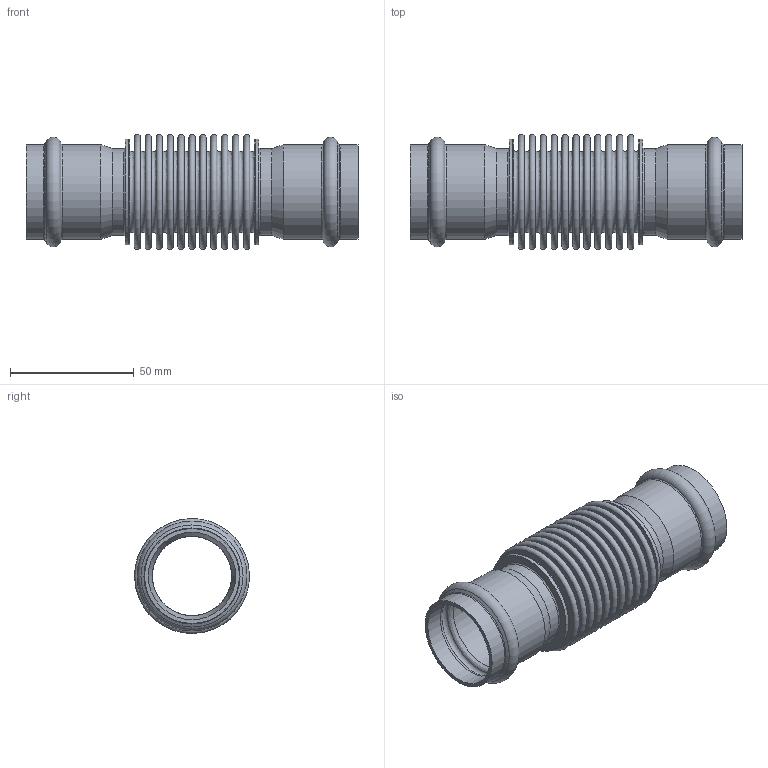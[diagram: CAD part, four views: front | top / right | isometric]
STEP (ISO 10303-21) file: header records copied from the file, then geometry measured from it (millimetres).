
FILE_DESCRIPTION((''),'2;1');
FILE_NAME('G:\Nirosan-Schmiedefeld\Technics\CAD\001 Serie 9.000\035\69872L35H(0).stp','2018-09-11T15:34:06',('herberg'),(''),'Autodesk Inventor 2009','Autodesk Inventor 2009','');
FILE_SCHEMA(('AUTOMOTIVE_DESIGN { 1 0 10303 214 1 1 1 1 }'));
Length unit declared in the file: millimetre
Products named in the file (3): 69872L35H(0); 69HMB35p(0); 69488L35H(0)
Assembly tree (3 placements, depth 2):
  69872L35H(0)
    69HMB35p(0)  x2
    69488L35H(0)
Bounding box: 134 x 46.38 x 46.38 mm (x, y, z)
Volume: 23802.3 mm3; surface area: 70247.3 mm2
Topology: 3 solids, 3 shells, 140 faces, 232 edges, 146 vertices
Faces by surface type: plane 54, bspline 36, torus 26, cylinder 16, cone 8
Full cylindrical faces by diameter (mm): 32 x2, 35 x2, 35.25 x4, 38.25 x4, 42.6 x4
Entity records: 4533 total; most frequent: CARTESIAN_POINT 2544, DIRECTION 424, ORIENTED_EDGE 236, EDGE_LOOP 236, AXIS2_PLACEMENT_3D 212, VERTEX_POINT 118, CIRCLE 118, EDGE_CURVE 118
